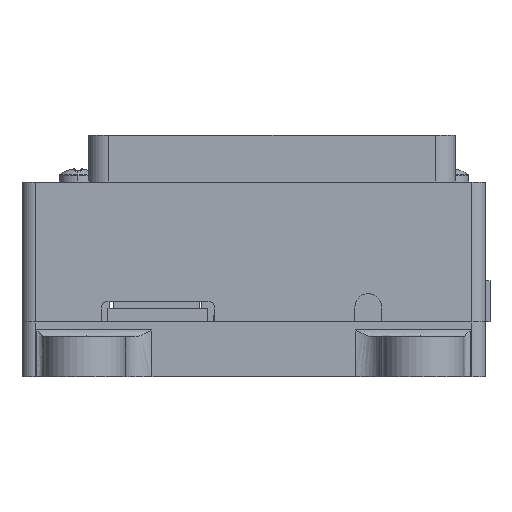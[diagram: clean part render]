
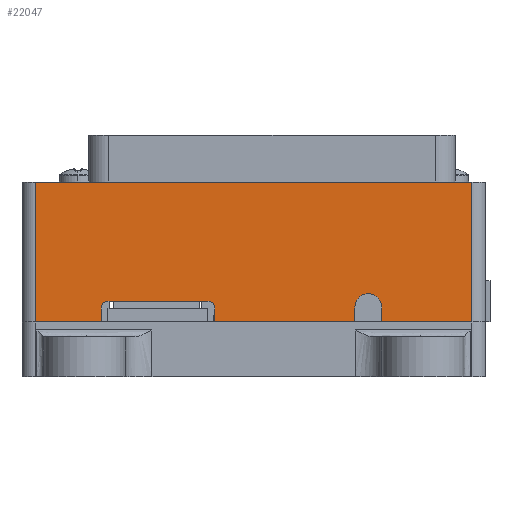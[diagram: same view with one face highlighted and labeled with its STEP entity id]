
A CAD part, left-side view. The second image highlights one B-rep face of the part: STEP entity #22047.
In plain terms, the highlighted free-form (B-spline) face has degree [1, 1] with [2, 2] control points.
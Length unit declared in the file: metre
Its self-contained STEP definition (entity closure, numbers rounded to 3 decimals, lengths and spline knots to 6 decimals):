
#373=B_SPLINE_SURFACE_WITH_KNOTS('',1,1,((#36546,#36547),(#36548,#36549)),
 .PLANE_SURF.,.F.,.F.,.F.,(2,2),(2,2),(0.,1.),(0.,1.),.UNSPECIFIED.);
#1432=LINE('',#35025,#3465);
#1613=LINE('',#35871,#3646);
#1708=LINE('',#36219,#3741);
#1727=LINE('',#36271,#3760);
#1804=LINE('',#36550,#3837);
#1805=LINE('',#36551,#3838);
#1806=LINE('',#36555,#3839);
#1807=LINE('',#36559,#3840);
#1808=LINE('',#36560,#3841);
#1809=LINE('',#36564,#3842);
#1810=LINE('',#36565,#3843);
#3465=VECTOR('',#25475,1.);
#3646=VECTOR('',#26126,1.);
#3741=VECTOR('',#26305,1.);
#3760=VECTOR('',#26332,1.);
#3837=VECTOR('',#26521,1.);
#3838=VECTOR('',#26522,1.);
#3839=VECTOR('',#26525,1.);
#3840=VECTOR('',#26528,1.);
#3841=VECTOR('',#26529,1.);
#3842=VECTOR('',#26532,1.);
#3843=VECTOR('',#26533,1.);
#8812=ORIENTED_EDGE('',*,*,#13310,.F.);
#8813=ORIENTED_EDGE('',*,*,#14023,.T.);
#8814=ORIENTED_EDGE('',*,*,#13730,.T.);
#8815=ORIENTED_EDGE('',*,*,#14024,.T.);
#8816=ORIENTED_EDGE('',*,*,#14025,.F.);
#8817=ORIENTED_EDGE('',*,*,#14026,.T.);
#8818=ORIENTED_EDGE('',*,*,#14027,.F.);
#8819=ORIENTED_EDGE('',*,*,#14028,.F.);
#8820=ORIENTED_EDGE('',*,*,#13867,.T.);
#8821=ORIENTED_EDGE('',*,*,#14029,.T.);
#8822=ORIENTED_EDGE('',*,*,#14030,.T.);
#8823=ORIENTED_EDGE('',*,*,#14031,.T.);
#8824=ORIENTED_EDGE('',*,*,#13890,.T.);
#8825=ORIENTED_EDGE('',*,*,#14032,.T.);
#13310=EDGE_CURVE('',#16135,#16136,#1432,.T.);
#13730=EDGE_CURVE('',#16546,#16547,#1613,.T.);
#13867=EDGE_CURVE('',#16662,#16664,#1708,.T.);
#13890=EDGE_CURVE('',#16682,#16681,#1727,.T.);
#14023=EDGE_CURVE('',#16135,#16546,#1804,.T.);
#14024=EDGE_CURVE('',#16547,#16796,#1805,.T.);
#14025=EDGE_CURVE('',#16797,#16796,#18179,.T.);
#14026=EDGE_CURVE('',#16797,#16798,#1806,.T.);
#14027=EDGE_CURVE('',#16799,#16798,#18180,.T.);
#14028=EDGE_CURVE('',#16662,#16799,#1807,.T.);
#14029=EDGE_CURVE('',#16664,#16800,#1808,.T.);
#14030=EDGE_CURVE('',#16800,#16801,#18181,.T.);
#14031=EDGE_CURVE('',#16801,#16682,#1809,.T.);
#14032=EDGE_CURVE('',#16681,#16136,#1810,.F.);
#16135=VERTEX_POINT('',#35024);
#16136=VERTEX_POINT('',#35026);
#16546=VERTEX_POINT('',#35872);
#16547=VERTEX_POINT('',#35873);
#16662=VERTEX_POINT('',#36214);
#16664=VERTEX_POINT('',#36218);
#16681=VERTEX_POINT('',#36270);
#16682=VERTEX_POINT('',#36272);
#16796=VERTEX_POINT('',#36552);
#16797=VERTEX_POINT('',#36554);
#16798=VERTEX_POINT('',#36556);
#16799=VERTEX_POINT('',#36558);
#16800=VERTEX_POINT('',#36561);
#16801=VERTEX_POINT('',#36563);
#18179=CIRCLE('',#23801,0.001);
#18180=CIRCLE('',#23802,0.001);
#18181=CIRCLE('',#23803,0.002);
#18947=EDGE_LOOP('',(#8812,#8813,#8814,#8815,#8816,#8817,#8818,#8819,#8820,
#8821,#8822,#8823,#8824,#8825));
#20331=FACE_BOUND('',#18947,.T.);
#22047=ADVANCED_FACE('',(#20331),#373,.F.);
#23801=AXIS2_PLACEMENT_3D('',#36553,#26523,#26524);
#23802=AXIS2_PLACEMENT_3D('',#36557,#26526,#26527);
#23803=AXIS2_PLACEMENT_3D('',#36562,#26530,#26531);
#25475=DIRECTION('',(0.,-1.,0.));
#26126=DIRECTION('',(0.,-1.,0.));
#26305=DIRECTION('',(0.,-1.,0.));
#26332=DIRECTION('',(0.,-1.,0.));
#26521=DIRECTION('',(0.,0.,-1.));
#26522=DIRECTION('',(0.,0.,1.));
#26523=DIRECTION('',(-1.,0.,0.));
#26524=DIRECTION('',(0.,-1.,0.));
#26525=DIRECTION('',(0.,-1.,0.));
#26526=DIRECTION('',(-1.,0.,0.));
#26527=DIRECTION('',(0.,-1.,0.));
#26528=DIRECTION('',(0.,0.,1.));
#26529=DIRECTION('',(0.,0.,1.));
#26530=DIRECTION('',(1.,0.,0.));
#26531=DIRECTION('',(0.,1.,0.));
#26532=DIRECTION('',(0.,0.,-1.));
#26533=DIRECTION('',(0.,0.,-1.));
#35024=CARTESIAN_POINT('',(-0.0023,0.0652,0.021));
#35025=CARTESIAN_POINT('',(-0.0023,0.03245,0.021));
#35026=CARTESIAN_POINT('',(-0.0023,-0.0003,0.021));
#35871=CARTESIAN_POINT('',(-0.0023,0.03245,0.));
#35872=CARTESIAN_POINT('',(-0.0023,0.0652,0.));
#35873=CARTESIAN_POINT('',(-0.0023,0.0553,0.));
#36214=CARTESIAN_POINT('',(-0.0023,0.0383,0.));
#36218=CARTESIAN_POINT('',(-0.0023,0.01725,0.));
#36219=CARTESIAN_POINT('',(-0.0023,0.03245,0.));
#36270=CARTESIAN_POINT('',(-0.0023,-0.0003,0.));
#36271=CARTESIAN_POINT('',(-0.0023,0.03245,0.));
#36272=CARTESIAN_POINT('',(-0.0023,0.01325,0.));
#36546=CARTESIAN_POINT('',(-0.0023,-0.0003,0.));
#36547=CARTESIAN_POINT('',(-0.0023,-0.0003,0.021));
#36548=CARTESIAN_POINT('',(-0.0023,0.0652,0.));
#36549=CARTESIAN_POINT('',(-0.0023,0.0652,0.021));
#36550=CARTESIAN_POINT('',(-0.0023,0.0652,0.));
#36551=CARTESIAN_POINT('',(-0.0023,0.0553,0.00105));
#36552=CARTESIAN_POINT('',(-0.0023,0.0553,0.0021));
#36553=CARTESIAN_POINT('',(-0.0023,0.0543,0.0021));
#36554=CARTESIAN_POINT('',(-0.0023,0.0543,0.0031));
#36555=CARTESIAN_POINT('',(-0.0023,0.0468,0.0031));
#36556=CARTESIAN_POINT('',(-0.0023,0.0393,0.0031));
#36557=CARTESIAN_POINT('',(-0.0023,0.0393,0.0021));
#36558=CARTESIAN_POINT('',(-0.0023,0.0383,0.0021));
#36559=CARTESIAN_POINT('',(-0.0023,0.0383,0.00105));
#36560=CARTESIAN_POINT('',(-0.0023,0.01725,0.019002));
#36561=CARTESIAN_POINT('',(-0.0023,0.01725,0.00225));
#36562=CARTESIAN_POINT('',(-0.0023,0.01525,0.00225));
#36563=CARTESIAN_POINT('',(-0.0023,0.01325,0.00225));
#36564=CARTESIAN_POINT('',(-0.0023,0.01325,0.019002));
#36565=CARTESIAN_POINT('',(-0.0023,-0.0003,0.019002));
